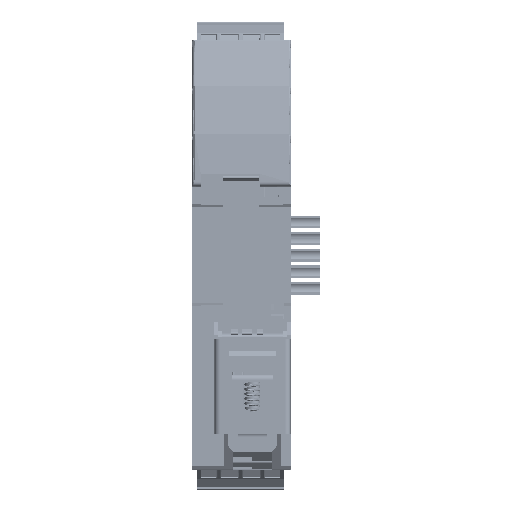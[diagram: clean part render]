
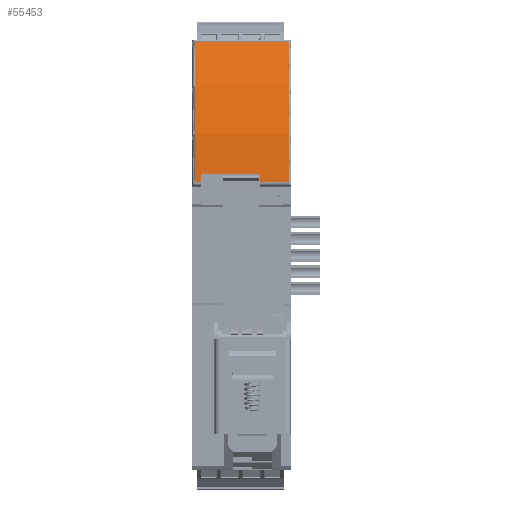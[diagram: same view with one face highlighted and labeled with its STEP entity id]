
A CAD part, left-side view. The second image highlights one B-rep face of the part: STEP entity #55453.
In plain terms, the highlighted cylindrical face has radius 80 mm (diameter 160 mm), a partial arc.
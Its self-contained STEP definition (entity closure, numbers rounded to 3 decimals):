
#55453=ADVANCED_FACE('',(#129761),#129763,.T.);
#129761=FACE_BOUND('',#129762,.T.);
#129762=EDGE_LOOP('',(#205039,#205040,#205041,#205042,#205043,#205044,#205045,#205046));
#129763=CYLINDRICAL_SURFACE('',#129764,80.);
#129764=AXIS2_PLACEMENT_3D('',#129765,#129766,#129767);
#129765=CARTESIAN_POINT('',(75.75,0.76,13.5));
#129766=DIRECTION('',(0.,1.,0.));
#129767=DIRECTION('',(0.,0.,1.));
#205039=ORIENTED_EDGE('',*,*,#240859,.F.);
#205040=ORIENTED_EDGE('',*,*,#240856,.T.);
#205041=ORIENTED_EDGE('',*,*,#244022,.T.);
#205042=ORIENTED_EDGE('',*,*,#240752,.T.);
#205043=ORIENTED_EDGE('',*,*,#240750,.T.);
#205044=ORIENTED_EDGE('',*,*,#241814,.F.);
#205045=ORIENTED_EDGE('',*,*,#241805,.T.);
#205046=ORIENTED_EDGE('',*,*,#241820,.F.);
#240750=EDGE_CURVE('',#280019,#280017,#280020,.T.);
#240752=EDGE_CURVE('',#280022,#280019,#280023,.T.);
#240856=EDGE_CURVE('',#280199,#280200,#280201,.T.);
#240859=EDGE_CURVE('',#280199,#280204,#280205,.T.);
#241805=EDGE_CURVE('',#281741,#281739,#281742,.T.);
#241814=EDGE_CURVE('',#281741,#280017,#281755,.T.);
#241820=EDGE_CURVE('',#280204,#281739,#281763,.T.);
#244022=EDGE_CURVE('',#280200,#280022,#285359,.T.);
#280017=VERTEX_POINT('',#363539);
#280019=VERTEX_POINT('',#363544);
#280020=LINE('',#363545,#363546);
#280022=VERTEX_POINT('',#363617);
#280023=CIRCLE('',#363618,80.);
#280199=VERTEX_POINT('',#364127);
#280200=VERTEX_POINT('',#364128);
#280201=CIRCLE('',#364129,80.);
#280204=VERTEX_POINT('',#364219);
#280205=LINE('',#364220,#364221);
#281739=VERTEX_POINT('',#368082);
#281741=VERTEX_POINT('',#368086);
#281742=LINE('',#368087,#368088);
#281755=CIRCLE('',#368118,80.);
#281763=CIRCLE('',#368139,80.);
#285359=LINE('',#377069,#377070);
#363539=CARTESIAN_POINT('',(-4.184,20.21,16.741));
#363544=CARTESIAN_POINT('',(-4.184,21.61,16.741));
#363545=CARTESIAN_POINT('',(-4.184,21.61,16.741));
#363546=VECTOR('',#363547,1.);
#363547=DIRECTION('',(0.,-1.,0.));
#363617=CARTESIAN_POINT('',(4.169,21.61,49.223));
#363618=AXIS2_PLACEMENT_3D('',#363619,#363620,#363621);
#363619=CARTESIAN_POINT('',(75.75,21.61,13.5));
#363620=DIRECTION('',(0.,-1.,0.));
#363621=DIRECTION('',(-0.895,0.,0.447));
#364127=CARTESIAN_POINT('',(-4.184,0.01,16.741));
#364128=CARTESIAN_POINT('',(4.169,0.01,49.223));
#364129=AXIS2_PLACEMENT_3D('',#364130,#364131,#364132);
#364130=CARTESIAN_POINT('',(75.75,0.01,13.5));
#364131=DIRECTION('',(0.,1.,0.));
#364132=DIRECTION('',(-0.999,0.,0.041));
#364219=CARTESIAN_POINT('',(-4.184,6.61,16.741));
#364220=CARTESIAN_POINT('',(-4.184,0.01,16.741));
#364221=VECTOR('',#364222,1.);
#364222=DIRECTION('',(0.,1.,0.));
#368082=CARTESIAN_POINT('',(-4.081,6.61,18.7));
#368086=CARTESIAN_POINT('',(-4.081,20.21,18.7));
#368087=CARTESIAN_POINT('',(-4.081,20.21,18.7));
#368088=VECTOR('',#368089,1.);
#368089=DIRECTION('',(0.,-1.,0.));
#368118=AXIS2_PLACEMENT_3D('',#368119,#368120,#368121);
#368119=CARTESIAN_POINT('',(75.75,20.21,13.5));
#368120=DIRECTION('',(0.,-1.,0.));
#368121=DIRECTION('',(-0.998,0.,0.065));
#368139=AXIS2_PLACEMENT_3D('',#368140,#368141,#368142);
#368140=CARTESIAN_POINT('',(75.75,6.61,13.5));
#368141=DIRECTION('',(0.,1.,0.));
#368142=DIRECTION('',(-0.999,0.,0.041));
#377069=CARTESIAN_POINT('',(4.169,0.01,49.223));
#377070=VECTOR('',#377071,1.);
#377071=DIRECTION('',(0.,1.,0.));
